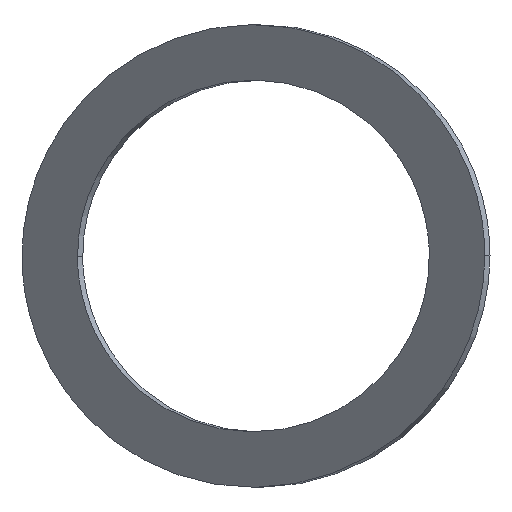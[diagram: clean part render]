
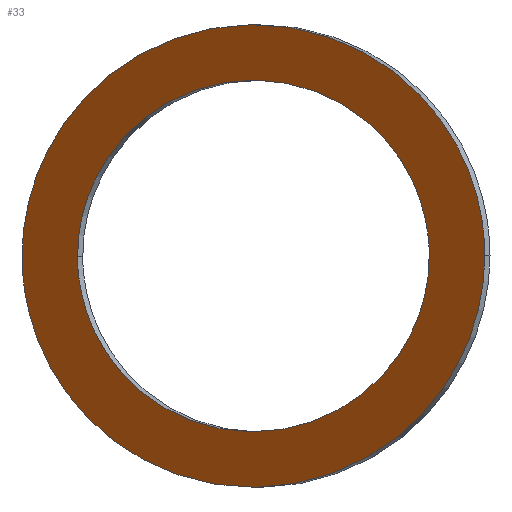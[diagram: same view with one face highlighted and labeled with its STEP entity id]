
A CAD part, top view. The second image highlights one B-rep face of the part: STEP entity #33.
In plain terms, the highlighted planar face has unit normal (-0.707, 0, 0.707).
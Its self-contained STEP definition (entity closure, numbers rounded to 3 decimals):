
#2 = EDGE_CURVE ( 'NONE', #34, #7, #66, .T. ) ;
#5 =( BOUNDED_CURVE ( )  B_SPLINE_CURVE ( 3, ( #29, #182, #107, #10 ),
 .UNSPECIFIED., .F., .T. ) 
 B_SPLINE_CURVE_WITH_KNOTS ( ( 4, 4 ),
 ( 3.142, 6.283 ),
 .UNSPECIFIED. ) 
 CURVE ( )  GEOMETRIC_REPRESENTATION_ITEM ( )  RATIONAL_B_SPLINE_CURVE ( ( 1., 0.333, 0.333, 1. ) ) 
 REPRESENTATION_ITEM ( '' )  );
#7 = VERTEX_POINT ( 'NONE', #40 ) ;
#9 = FACE_BOUND ( 'NONE', #203, .T. ) ;
#10 = CARTESIAN_POINT ( 'NONE',  ( -5.429, 0., -15.429 ) ) ;
#11 = EDGE_CURVE ( 'NONE', #108, #16, #71, .T. ) ;
#12 = CARTESIAN_POINT ( 'NONE',  ( 16.571, 19., 6.571 ) ) ;
#14 = CARTESIAN_POINT ( 'NONE',  ( -5.429, 0., -15.429 ) ) ;
#16 = VERTEX_POINT ( 'NONE', #124 ) ;
#20 = ORIENTED_EDGE ( 'NONE', *, *, #146, .F. ) ;
#22 = AXIS2_PLACEMENT_3D ( 'NONE', #104, #139, #175 ) ;
#26 = ORIENTED_EDGE ( 'NONE', *, *, #11, .T. ) ;
#28 = CARTESIAN_POINT ( 'NONE',  ( -2.429, 0., -12.429 ) ) ;
#29 = CARTESIAN_POINT ( 'NONE',  ( 19.571, 0., 9.571 ) ) ;
#33 = ADVANCED_FACE ( 'NONE', ( #9, #80 ), #210, .F. ) ;
#34 = VERTEX_POINT ( 'NONE', #194 ) ;
#38 = CARTESIAN_POINT ( 'NONE',  ( -5.429, 25., -15.429 ) ) ;
#40 = CARTESIAN_POINT ( 'NONE',  ( 19.571, 0., 9.571 ) ) ;
#42 = CARTESIAN_POINT ( 'NONE',  ( 19.571, 25., 9.571 ) ) ;
#60 = CARTESIAN_POINT ( 'NONE',  ( -2.429, -19., -12.429 ) ) ;
#66 =( BOUNDED_CURVE ( )  B_SPLINE_CURVE ( 3, ( #14, #38, #42, #90 ),
 .UNSPECIFIED., .F., .T. ) 
 B_SPLINE_CURVE_WITH_KNOTS ( ( 4, 4 ),
 ( 0., 3.142 ),
 .UNSPECIFIED. ) 
 CURVE ( )  GEOMETRIC_REPRESENTATION_ITEM ( )  RATIONAL_B_SPLINE_CURVE ( ( 1., 0.333, 0.333, 1. ) ) 
 REPRESENTATION_ITEM ( '' )  );
#68 = EDGE_CURVE ( 'NONE', #16, #108, #185, .T. ) ;
#71 =( BOUNDED_CURVE ( )  B_SPLINE_CURVE ( 3, ( #151, #73, #60, #95 ),
 .UNSPECIFIED., .F., .T. ) 
 B_SPLINE_CURVE_WITH_KNOTS ( ( 4, 4 ),
 ( 3.142, 6.283 ),
 .UNSPECIFIED. ) 
 CURVE ( )  GEOMETRIC_REPRESENTATION_ITEM ( )  RATIONAL_B_SPLINE_CURVE ( ( 1., 0.333, 0.333, 1. ) ) 
 REPRESENTATION_ITEM ( '' )  );
#72 = ORIENTED_EDGE ( 'NONE', *, *, #68, .T. ) ;
#73 = CARTESIAN_POINT ( 'NONE',  ( 16.571, -19., 6.571 ) ) ;
#80 = FACE_OUTER_BOUND ( 'NONE', #201, .T. ) ;
#90 = CARTESIAN_POINT ( 'NONE',  ( 19.571, 0., 9.571 ) ) ;
#95 = CARTESIAN_POINT ( 'NONE',  ( -2.429, 0., -12.429 ) ) ;
#104 = CARTESIAN_POINT ( 'NONE',  ( 7.071, 0., -2.929 ) ) ;
#107 = CARTESIAN_POINT ( 'NONE',  ( -5.429, -25., -15.429 ) ) ;
#108 = VERTEX_POINT ( 'NONE', #183 ) ;
#124 = CARTESIAN_POINT ( 'NONE',  ( -2.429, 0., -12.429 ) ) ;
#139 = DIRECTION ( 'NONE',  ( 0.707, 0., -0.707 ) ) ;
#146 = EDGE_CURVE ( 'NONE', #7, #34, #5, .T. ) ;
#151 = CARTESIAN_POINT ( 'NONE',  ( 16.571, 0., 6.571 ) ) ;
#154 = CARTESIAN_POINT ( 'NONE',  ( -2.429, 19., -12.429 ) ) ;
#166 = ORIENTED_EDGE ( 'NONE', *, *, #2, .F. ) ;
#175 = DIRECTION ( 'NONE',  ( 0., -1., 0. ) ) ;
#182 = CARTESIAN_POINT ( 'NONE',  ( 19.571, -25., 9.571 ) ) ;
#183 = CARTESIAN_POINT ( 'NONE',  ( 16.571, 0., 6.571 ) ) ;
#185 =( BOUNDED_CURVE ( )  B_SPLINE_CURVE ( 3, ( #28, #154, #12, #209 ),
 .UNSPECIFIED., .F., .T. ) 
 B_SPLINE_CURVE_WITH_KNOTS ( ( 4, 4 ),
 ( 0., 3.142 ),
 .UNSPECIFIED. ) 
 CURVE ( )  GEOMETRIC_REPRESENTATION_ITEM ( )  RATIONAL_B_SPLINE_CURVE ( ( 1., 0.333, 0.333, 1. ) ) 
 REPRESENTATION_ITEM ( '' )  );
#194 = CARTESIAN_POINT ( 'NONE',  ( -5.429, 0., -15.429 ) ) ;
#201 = EDGE_LOOP ( 'NONE', ( #166, #20 ) ) ;
#203 = EDGE_LOOP ( 'NONE', ( #72, #26 ) ) ;
#209 = CARTESIAN_POINT ( 'NONE',  ( 16.571, 0., 6.571 ) ) ;
#210 = PLANE ( 'NONE',  #22 ) ;
